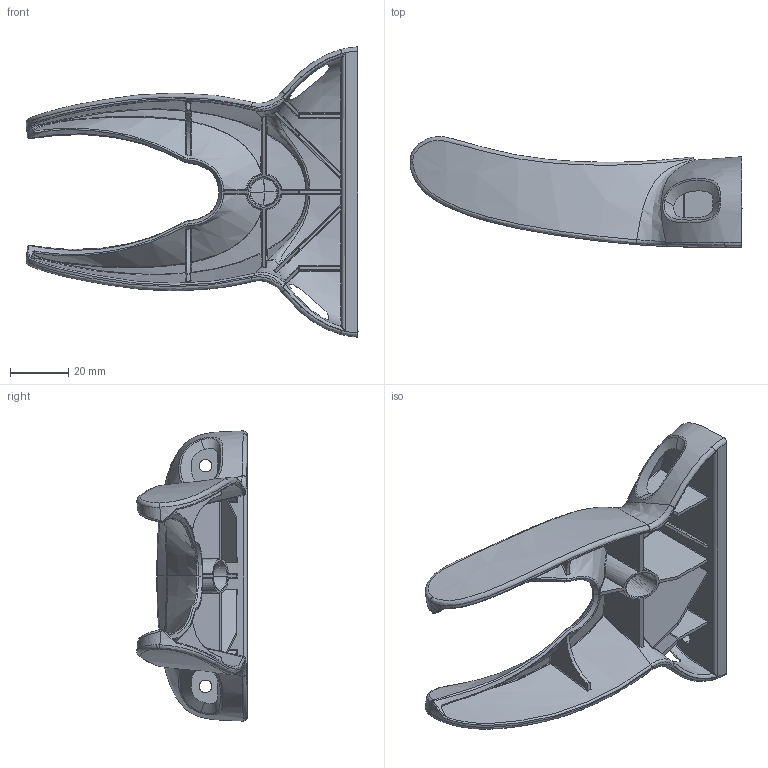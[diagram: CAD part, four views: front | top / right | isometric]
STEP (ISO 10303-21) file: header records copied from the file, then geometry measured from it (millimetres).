
FILE_DESCRIPTION((''),'2;1');
FILE_NAME('C:\11-66553-xx.stp','2019-09-06T11:35:15',('User'),('SDRC'), 'I-DEAS Master Series','UNIX','Yes');
FILE_SCHEMA(('CONFIG_CONTROL_DESIGN', 'GEOMETRIC_VALIDATION_PROPERTIES_MIM','SHAPE_APPEARANCE_LAYER_MIM'));
Length unit declared in the file: inch
Bounding box: 113.91 x 37.85 x 99.6 mm (x, y, z)
Volume: 38584.2 mm3; surface area: 36407.7 mm2
Topology: 1 solids, 1 shells, 501 faces, 1238 edges, 669 vertices
Faces by surface type: bspline 501
Entity records: 33894 total; most frequent: CARTESIAN_POINT 26205, ORIENTED_EDGE 2318, EDGE_CURVE 1159, VERTEX_POINT 669, B_SPLINE_CURVE_WITH_KNOTS 642, EDGE_LOOP 518, FACE_OUTER_BOUND 501, ADVANCED_FACE 501
